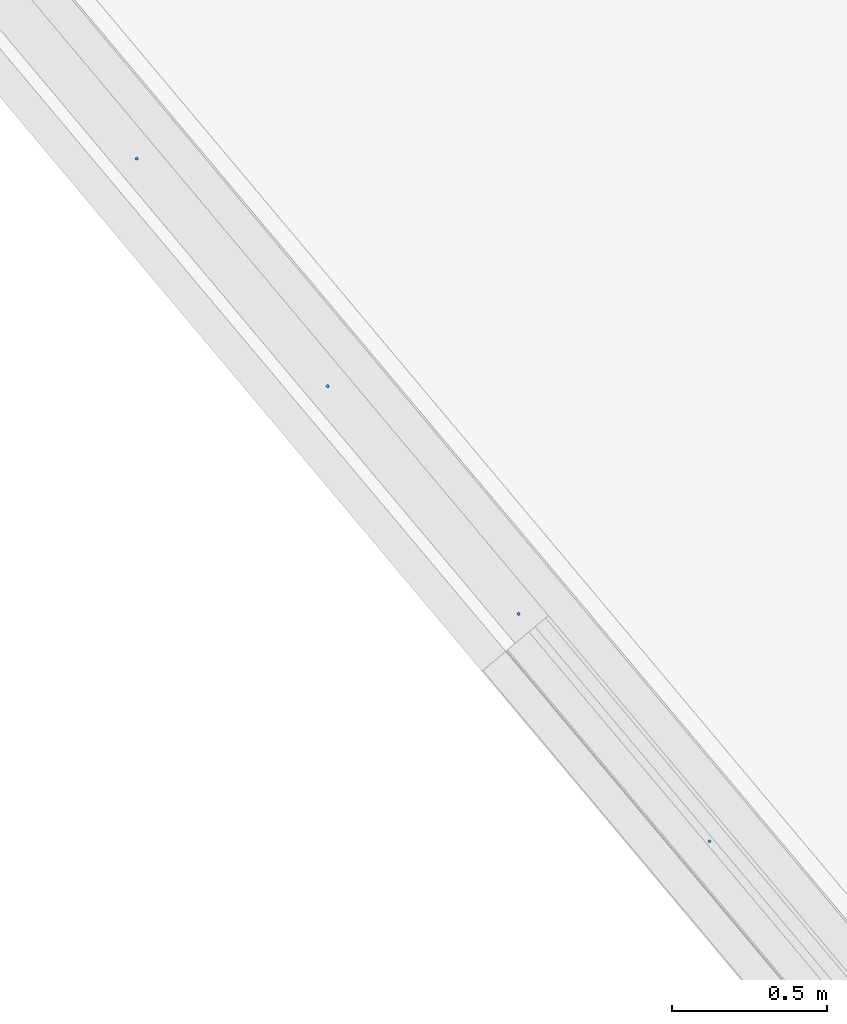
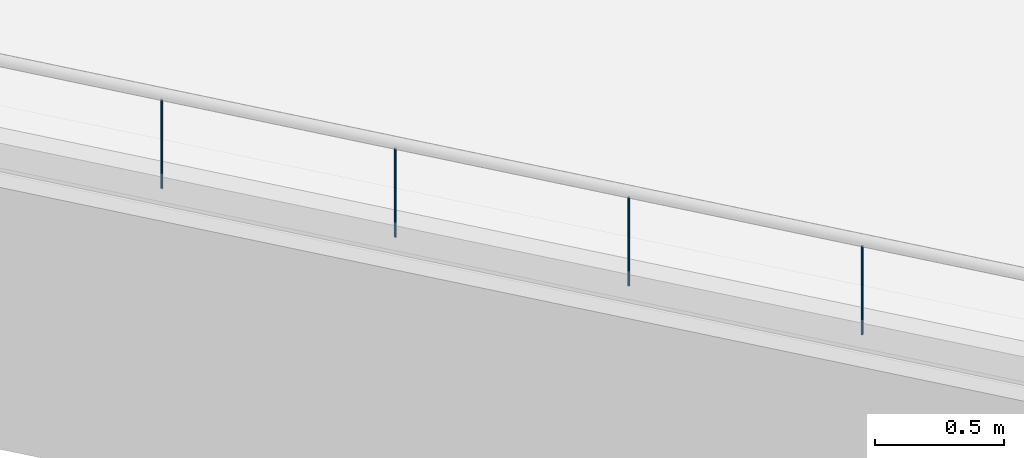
# One storey, part 7 of 321: 4 members, 1 element without a shape of its own.
"""IFC2X3 building model written with IfcOpenShell, lengths in millimetres."""

from ifc_helpers import new_model, entity, si_unit, converted_unit, derived_unit, money_unit, direction, frame, origin_with_axes, place, context, subcontext, project, spatial, faceted_brep, source, transform, mapped, material, type_object, type_shapes, element, aggregate, save


model = new_model("IFC2X3")

# Units and contexts
model_context = context("Model", 3, precision=0.01, world=origin_with_axes(), true_north=direction((0.0, 1.0)))
plan_context = context("Plan", 3, precision=0.01, world=origin_with_axes(), true_north=direction((0.0, 1.0)))
body_context = subcontext(model_context, "Body", "Model", "MODEL_VIEW")
ifc_project = project(units=[si_unit("LENGTHUNIT", "METRE", prefix="MILLI"), si_unit("AREAUNIT", "SQUARE_METRE"), si_unit("VOLUMEUNIT", "CUBIC_METRE"), converted_unit("PLANEANGLEUNIT", "DEGREE", entity("IfcPlaneAngleMeasure", 0.0174532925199), si_unit("PLANEANGLEUNIT", "RADIAN"), dimensions=[0, 0, 0, 0, 0, 0, 0]), money_unit("EUR"), converted_unit("TIMEUNIT", "Year", entity("IfcTimeMeasure", 31556926.0), si_unit("TIMEUNIT", "SECOND"), dimensions=[0, 0, 1, 0, 0, 0, 0]), si_unit("MASSUNIT", "GRAM", prefix="KILO"), si_unit("THERMODYNAMICTEMPERATUREUNIT", "DEGREE_CELSIUS"), si_unit("LUMINOUSINTENSITYUNIT", "LUMEN"), si_unit("ENERGYUNIT", "JOULE", prefix="MEGA"), derived_unit("THERMALCONDUCTANCEUNIT", [(si_unit("POWERUNIT", "WATT"), 1), (si_unit("LENGTHUNIT", "METRE"), -1), (si_unit("THERMODYNAMICTEMPERATUREUNIT", "KELVIN"), -1)]), derived_unit("SPECIFICHEATCAPACITYUNIT", [(si_unit("ENERGYUNIT", "JOULE"), 1), (si_unit("MASSUNIT", "GRAM", prefix="KILO"), -1), (si_unit("THERMODYNAMICTEMPERATUREUNIT", "KELVIN"), -1)]), derived_unit("MASSDENSITYUNIT", [(si_unit("MASSUNIT", "GRAM", prefix="KILO"), 1), (si_unit("VOLUMEUNIT", "CUBIC_METRE"), -1)])], contexts=[model_context, plan_context])

# Site, building, storey
site_placement = place(None, origin_with_axes())
site = spatial("IfcSite", under=ifc_project, at=site_placement, Name="Fortuinstraat Woensdrecht", CompositionType="ELEMENT")
building_placement = place(site_placement, origin_with_axes())
building = spatial("IfcBuilding", under=site, at=building_placement, Name="IKC Fortuna", CompositionType="ELEMENT")
storey_placement = place(building_placement, frame((0.0, 0.0, 4000.0), z_axis=(0.0, 0.0, 1.0), x_axis=(1.0, 0.0, 0.0)))
storey = spatial("IfcBuildingStorey", under=building, at=storey_placement, Name="01 eerste verdieping", CompositionType="ELEMENT", Elevation=4000.0)

# Railing, members
railing_type = type_object("IfcRailingType", Name="Railing Type", PredefinedType="NOTDEFINED")
railing_placement = place(storey_placement, frame((4151.56334028, 3601.06192057, 2353.5), z_axis=(0.0, 0.0, 1.0), x_axis=(1.0, 0.0, 0.0)))
railing = element("IfcRailing", 1, at=railing_placement, inside=storey, type_object=railing_type, Name="34_Reling_Reling vide", PredefinedType="NOTDEFINED")
ifc_material = material(Name="Metaal - Staal AFW")
member_type = type_object("IfcMemberType", Name="IfcMember", PredefinedType="MEMBER")
shared_shape = source(origin_with_axes(), body_context, "Body", "Brep", [
    faceted_brep([(0.0, -5.0, 0.0), (0.868240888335, -4.92403876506, 0.0), (0.868240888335, -4.92403876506, 418.5), (0.0, -5.0, 418.5), (-0.868240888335, -4.92403876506, 0.0), (-1.71010071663, -4.69846310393, 0.0), (-2.5, -4.33012701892, 0.0), (-3.21393804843, -3.83022221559, 0.0), (-3.83022221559, -3.21393804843, 0.0), (-4.33012701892, -2.5, 0.0), (-4.69846310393, -1.71010071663, 0.0), (-4.92403876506, -0.868240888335, 0.0), (-5.0, 0.0, 0.0), (-4.92403876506, 0.868240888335, 0.0), (-4.69846310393, 1.71010071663, 0.0), (-4.33012701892, 2.5, 0.0), (-3.83022221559, 3.21393804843, 0.0), (-3.21393804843, 3.83022221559, 0.0), (-2.5, 4.33012701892, 0.0), (-1.71010071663, 4.69846310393, 0.0), (-0.868240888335, 4.92403876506, 0.0), (0.0, 5.0, 0.0), (0.868240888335, 4.92403876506, 0.0), (1.71010071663, 4.69846310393, 0.0), (2.5, 4.33012701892, 0.0), (3.21393804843, 3.83022221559, 0.0), (3.83022221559, 3.21393804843, 0.0), (4.33012701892, 2.5, 0.0), (4.69846310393, 1.71010071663, 0.0), (4.92403876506, 0.868240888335, 0.0), (5.0, 0.0, 0.0), (4.92403876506, -0.868240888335, 0.0), (4.69846310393, -1.71010071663, 0.0), (4.33012701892, -2.5, 0.0), (3.83022221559, -3.21393804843, 0.0), (3.21393804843, -3.83022221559, 0.0), (2.5, -4.33012701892, 0.0), (1.71010071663, -4.69846310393, 0.0), (1.71010071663, -4.69846310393, 418.5), (2.5, -4.33012701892, 418.5), (3.21393804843, -3.83022221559, 418.5), (3.83022221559, -3.21393804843, 418.5), (4.33012701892, -2.5, 418.5), (4.69846310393, -1.71010071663, 418.5), (4.92403876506, -0.868240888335, 418.5), (5.0, 0.0, 418.5), (4.92403876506, 0.868240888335, 418.5), (4.69846310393, 1.71010071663, 418.5), (4.33012701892, 2.5, 418.5), (3.83022221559, 3.21393804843, 418.5), (3.21393804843, 3.83022221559, 418.5), (2.5, 4.33012701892, 418.5), (1.71010071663, 4.69846310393, 418.5), (0.868240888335, 4.92403876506, 418.5), (0.0, 5.0, 418.5), (-0.868240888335, 4.92403876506, 418.5), (-1.71010071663, 4.69846310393, 418.5), (-2.5, 4.33012701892, 418.5), (-3.21393804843, 3.83022221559, 418.5), (-3.83022221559, 3.21393804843, 418.5), (-4.33012701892, 2.5, 418.5), (-4.69846310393, 1.71010071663, 418.5), (-4.92403876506, 0.868240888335, 418.5), (-5.0, 0.0, 418.5), (-4.92403876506, -0.868240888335, 418.5), (-4.69846310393, -1.71010071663, 418.5), (-4.33012701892, -2.5, 418.5), (-3.83022221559, -3.21393804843, 418.5), (-3.21393804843, -3.83022221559, 418.5), (-2.5, -4.33012701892, 418.5), (-1.71010071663, -4.69846310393, 418.5), (-0.868240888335, -4.92403876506, 418.5)], [[[0, 1, 2, 3]], [[0, 4, 5, 6, 7, 8, 9, 10, 11, 12, 13, 14, 15, 16, 17, 18, 19, 20, 21, 22, 23, 24, 25, 26, 27, 28, 29, 30, 31, 32, 33, 34, 35, 36, 37, 1]], [[1, 37, 38, 2]], [[3, 2, 38, 39, 40, 41, 42, 43, 44, 45, 46, 47, 48, 49, 50, 51, 52, 53, 54, 55, 56, 57, 58, 59, 60, 61, 62, 63, 64, 65, 66, 67, 68, 69, 70, 71]], [[4, 0, 3, 71]], [[5, 4, 71, 70]], [[6, 5, 70, 69]], [[7, 6, 69, 68]], [[8, 7, 68, 67]], [[9, 8, 67, 66]], [[10, 9, 66, 65]], [[11, 10, 65, 64]], [[12, 11, 64, 63]], [[13, 12, 63, 62]], [[14, 13, 62, 61]], [[15, 14, 61, 60]], [[16, 15, 60, 59]], [[17, 16, 59, 58]], [[18, 17, 58, 57]], [[19, 18, 57, 56]], [[20, 19, 56, 55]], [[21, 20, 55, 54]], [[22, 21, 54, 53]], [[23, 22, 53, 52]], [[24, 23, 52, 51]], [[25, 24, 51, 50]], [[26, 25, 50, 49]], [[27, 26, 49, 48]], [[28, 27, 48, 47]], [[29, 28, 47, 46]], [[30, 29, 46, 45]], [[31, 30, 45, 44]], [[32, 31, 44, 43]], [[33, 32, 43, 42]], [[34, 33, 42, 41]], [[35, 34, 41, 40]], [[36, 35, 40, 39]], [[37, 36, 39, 38]]]),
])
type_shapes(member_type, [shared_shape])
member_1_placement = place(railing_placement, frame((4384.18871303, -13882.4757603, -18.5), z_axis=(0.0, 0.0, 1.0), x_axis=(1.0, 0.0, 0.0)))
member_1 = element("IfcMember", 2, at=member_1_placement, type_object=member_type, material=ifc_material, Name="_Onderdeel_Spijlen-x", ObjectType="MEMBER", context=body_context, shape_type="MappedRepresentation", body=[
    mapped(shared_shape, transform((0.0, 0.0, 0.0), x_axis=(-0.766044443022, -0.642787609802, 0.0), y_axis=(0.642787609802, -0.766044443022, 0.0), z_axis=(0.0, 0.0, 1.0))),
])
member_2_placement = place(railing_placement, frame((5000.92944853, -14617.4787474, -18.5), z_axis=(0.0, 0.0, 1.0), x_axis=(1.0, 0.0, 0.0)))
member_2 = element("IfcMember", 3, at=member_2_placement, type_object=member_type, material=ifc_material, Name="_Onderdeel_Spijlen-x", ObjectType="MEMBER", context=body_context, shape_type="MappedRepresentation", body=[
    mapped(shared_shape, transform((0.0, 0.0, 0.0), x_axis=(-0.766044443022, -0.642787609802, 0.0), y_axis=(0.642787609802, -0.766044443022, 0.0), z_axis=(0.0, 0.0, 1.0))),
])
member_3_placement = place(railing_placement, frame((5617.67018403, -15352.4817344, -18.5), z_axis=(0.0, 0.0, 1.0), x_axis=(1.0, 0.0, 0.0)))
member_3 = element("IfcMember", 4, at=member_3_placement, type_object=member_type, material=ifc_material, Name="_Onderdeel_Spijlen-x", ObjectType="MEMBER", context=body_context, shape_type="MappedRepresentation", body=[
    mapped(shared_shape, transform((0.0, 0.0, 0.0), x_axis=(-0.766044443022, -0.642787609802, 0.0), y_axis=(0.642787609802, -0.766044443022, 0.0), z_axis=(0.0, 0.0, 1.0))),
])
member_4_placement = place(railing_placement, frame((6234.41091953, -16087.4847214, -18.5), z_axis=(0.0, 0.0, 1.0), x_axis=(1.0, 0.0, 0.0)))
member_4 = element("IfcMember", 5, at=member_4_placement, type_object=member_type, material=ifc_material, Name="_Onderdeel_Spijlen-x", ObjectType="MEMBER", context=body_context, shape_type="MappedRepresentation", body=[
    mapped(shared_shape, transform((0.0, 0.0, 0.0), x_axis=(-0.766044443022, -0.642787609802, 0.0), y_axis=(0.642787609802, -0.766044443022, 0.0), z_axis=(0.0, 0.0, 1.0))),
])
aggregate(railing, [member_1, member_2, member_3, member_4])

save(model, "model.ifc")
